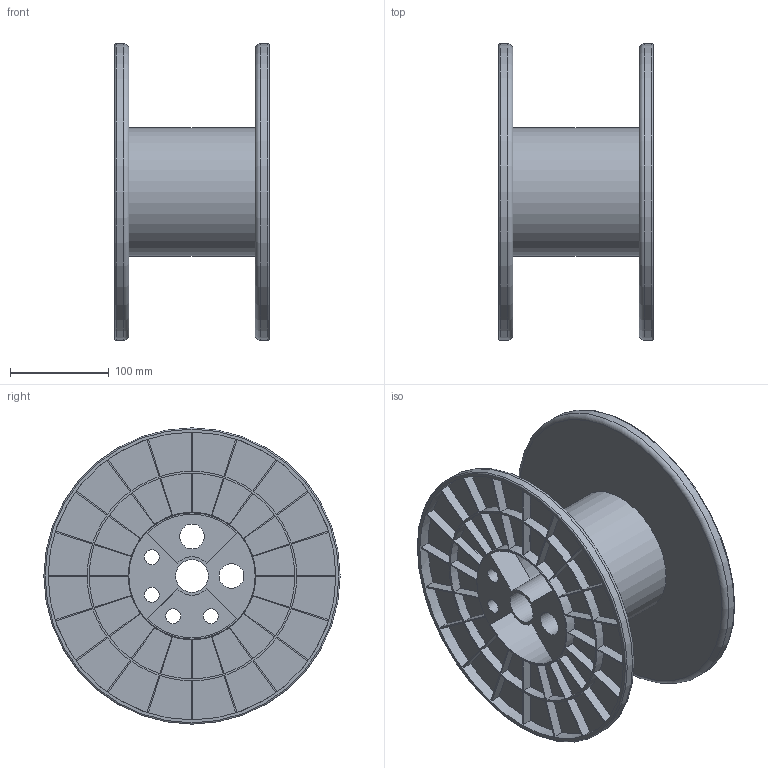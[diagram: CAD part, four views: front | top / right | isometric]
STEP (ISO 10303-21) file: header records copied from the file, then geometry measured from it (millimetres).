
FILE_DESCRIPTION(/* description */ ('','CAx-IF Rec.Pracs.---Representation and Presentation of Product Manufacturing Information (PMI)---4.0---2014-10-13'),/* implementation_level */ '2;1');
FILE_NAME(/* name */ 'stor-rulle v2.step',/* time_stamp */ '2025-01-14T22:03:59+01:00',/* author */ (''),/* organization */ (''),/* preprocessor_version */ 'ST-DEVELOPER v20',/* originating_system */ 'Autodesk Translation Framework v13.20.0.188',/* authorisation */ '');
FILE_SCHEMA (('AP242_MANAGED_MODEL_BASED_3D_ENGINEERING_MIM_LF { 1 0 10303 442 1 1 4 }'));
Length unit declared in the file: millimetre
Products named in the file (2): stor-rulle; Component3
Assembly tree (1 placements, depth 2):
  stor-rulle
    Component3
Bounding box: 156 x 300 x 300 mm (x, y, z)
Volume: 880415.3 mm3; surface area: 546167.8 mm2
Topology: 1 solids, 1 shells, 365 faces, 1086 edges, 724 vertices
Faces by surface type: plane 261, cylinder 98, torus 6
Full cylindrical faces by diameter (mm): 15 x4, 25 x2, 33 x1, 39 x1, 125 x1, 129 x2, 130 x1, 291.326 x2, 300 x2
Entity records: 12476 total; most frequent: DIRECTION 2214, CARTESIAN_POINT 2178, ORIENTED_EDGE 2172, EDGE_CURVE 1086, AXIS2_PLACEMENT_3D 760, VERTEX_POINT 724, LINE 694, VECTOR 694
